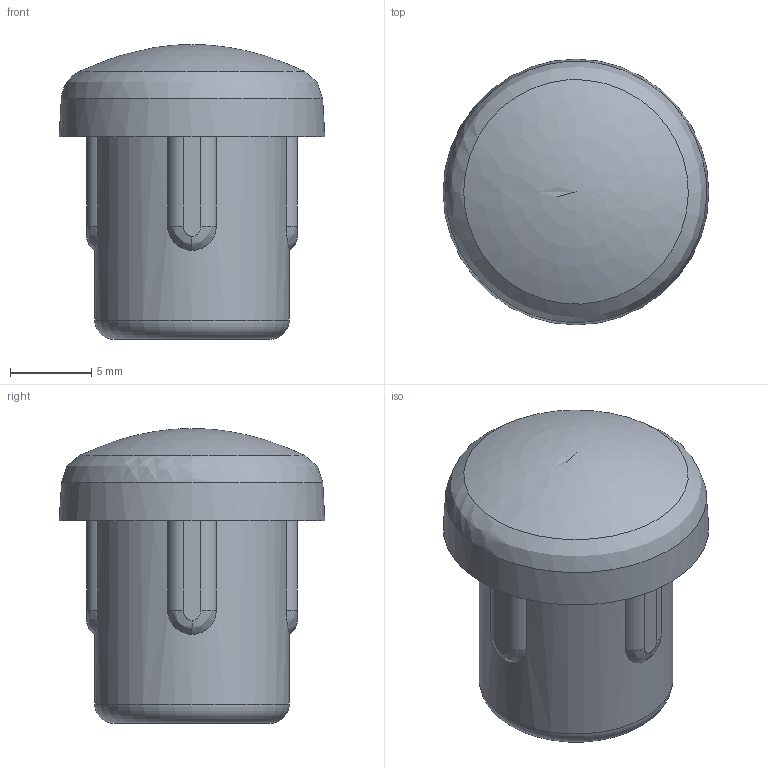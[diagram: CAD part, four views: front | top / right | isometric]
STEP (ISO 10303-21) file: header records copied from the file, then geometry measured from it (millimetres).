
FILE_DESCRIPTION(/* description */ (''),/* implementation_level */ '2;1');
FILE_NAME(/* name */ '\\NAS\db20\PR5-16\DR_PR5-16.stp',/* time_stamp */ '2017-09-25T13:10:50+09:00',/* author */ ('user'),/* organization */ (''),/* preprocessor_version */ 'ST-DEVELOPER v15.6',/* originating_system */ 'Autodesk Inventor 2015',/* authorisation */ '');
FILE_SCHEMA (('AUTOMOTIVE_DESIGN { 1 0 10303 214 3 1 1 }'));
Length unit declared in the file: millimetre
Products named in the file (1): DR_PR5-16
Bounding box: 16.4 x 16.4 x 18.2 mm (x, y, z)
Volume: 1483.2 mm3; surface area: 1429.3 mm2
Topology: 1 solids, 1 shells, 29 faces, 74 edges, 48 vertices
Faces by surface type: bspline 10, cylinder 10, plane 7, cone 1, torus 1
Full cylindrical faces by diameter (mm): 9.5 x1, 12 x1
Entity records: 1334 total; most frequent: CARTESIAN_POINT 664, ORIENTED_EDGE 138, DIRECTION 120, EDGE_CURVE 69, AXIS2_PLACEMENT_3D 50, VERTEX_POINT 48, EDGE_LOOP 35, CIRCLE 30
